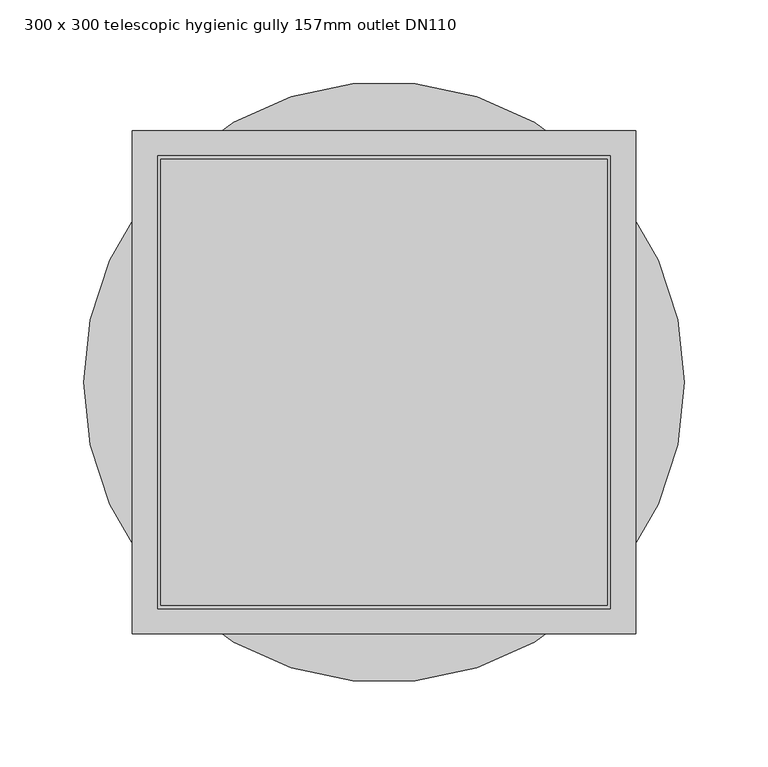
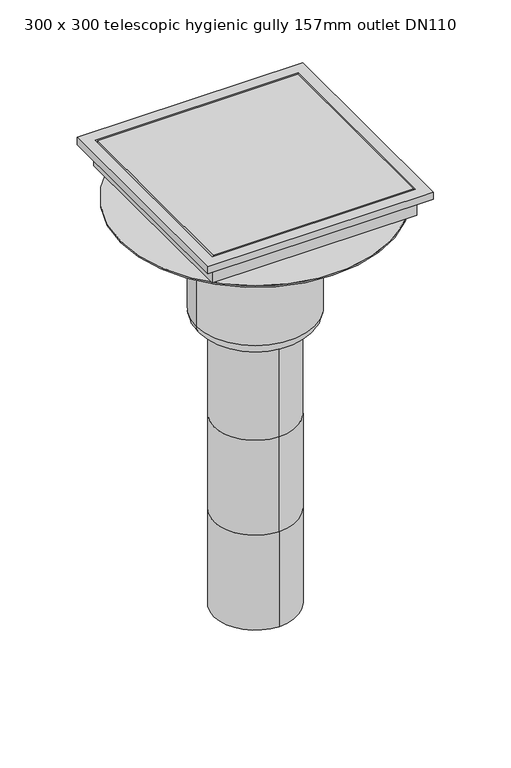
"""IFC4 building model written with IfcOpenShell, lengths in millimetres: sanitary terminal geometry, PF_ST_UN_Siphon telescopics eskis elongated hygiene first_ACO : 300 x 300 telescopic hygienic gully 157mm outlet DN110."""

from ifc_helpers import new_model, si_unit, point, frame, origin, origin_2d, place, context, project, spatial, polyline, circle_curve, ellipse_curve, trimmed, segment, composite_curve, outline, extrude, faceted_brep, source, transform, mapped, element, save
from ifc_brep_helpers import plane_surface, cylinder_surface, revolved_surface, advanced_brep


def sanitary_terminal_300_x_300_telescopic_hygienic_gully_157mm_dd55190f(model_context):
    return source(origin(), model_context, "Body", "SolidModel", [
        extrude(outline(composite_curve([segment(trimmed(circle_curve(origin_2d(), 71.5), [point((-71.5, 0.0))], [point((71.5, 0.0))], False, "CARTESIAN"), True, "CONTINUOUS"), segment(trimmed(circle_curve(origin_2d(), 71.5), [point((71.5, 0.0))], [point((-71.5, 0.0))], False, "CARTESIAN"), True, "CONTINUOUS")], self_intersect=False)), frame((0.0, 0.0, -219.0), z_axis=(0.0, 0.0, 1.0), x_axis=(1.0, 0.0, 0.0)), (0.0, 0.0, 1.0), 63.0),
        faceted_brep([(150.0, 150.0, -130.0), (150.0, 150.0, -120.0), (150.0, -150.0, -120.0), (150.0, -150.0, -130.0), (136.0, 136.0, -156.0), (136.0, 136.0, -130.0), (136.0, -136.0, -130.0), (136.0, -136.0, -156.0), (135.0, -135.0, -120.0), (135.0, 135.0, -120.0), (135.0, 135.0, -146.0), (135.0, -135.0, -146.0), (-150.0, -150.0, -120.0), (-150.0, -150.0, -130.0), (-136.0, -136.0, -130.0), (-136.0, -136.0, -156.0), (-135.0, -135.0, -120.0), (-135.0, -135.0, -146.0), (-150.0, 150.0, -120.0), (-150.0, 150.0, -130.0), (-136.0, 136.0, -130.0), (-136.0, 136.0, -156.0), (-135.0, 135.0, -120.0), (-135.0, 135.0, -146.0)], [[[0, 1, 2, 3]], [[4, 5, 6, 7]], [[8, 9, 10, 11]], [[3, 2, 12, 13]], [[7, 6, 14, 15]], [[16, 8, 11, 17]], [[13, 12, 18, 19]], [[15, 14, 20, 21]], [[22, 16, 17, 23]], [[2, 1, 18, 12], [9, 8, 16, 22]], [[1, 0, 19, 18]], [[0, 3, 13, 19], [6, 5, 20, 14]], [[5, 4, 21, 20]], [[4, 7, 15, 21]], [[9, 22, 23, 10]], [[11, 10, 23, 17]]]),
        extrude(outline(polyline([(133.0, 133.0), (133.0, -133.0), (-133.0, -133.0), (-133.0, 133.0), (133.0, 133.0)])), frame((0.0, 0.0, -146.0), z_axis=(0.0, 0.0, 1.0), x_axis=(1.0, 0.0, 0.0)), (0.0, 0.0, 1.0), 26.0),
        advanced_brep(
        [(0.0, -55.0, -736.0), (0.0, 55.0, -736.0), (0.0, -55.0, -602.6666667), (0.0, 55.0, -602.6666667), (0.0, -55.0, -469.3333333), (0.0, 55.0, -469.3333333), (0.0, 55.0, -336.0), (55.0, 0.0, -336.0), (0.0, -55.0, -336.0), (-55.0, 0.0, -336.0), (78.5, 0.0, -319.5), (-78.5, 0.0, -319.5), (-78.5, 0.0, -167.0), (78.5, 0.0, -167.0), (62.0, 0.0, -336.0), (-62.0, 0.0, -336.0), (-179.0, 0.0, -167.0), (179.0, 0.0, -167.0), (-179.0, 0.0, -165.0), (179.0, 0.0, -165.0)],
        [
            (0, 1, circle_curve(frame((0.0, 0.0, -736.0), z_axis=(0.0, 0.0, -1.0), x_axis=(0.0, 1.0, 0.0)), 55.0)),
            (1, 0, circle_curve(frame((0.0, 0.0, -736.0), z_axis=(0.0, 0.0, -1.0), x_axis=(0.0, 1.0, 0.0)), 55.0)),
            (0, 2),
            (2, 3, circle_curve(frame((0.0, 0.0, -602.6666667), z_axis=(0.0, 0.0, -1.0), x_axis=(0.0, 1.0, 0.0)), 55.0)),
            (3, 1),
            (3, 2, circle_curve(frame((0.0, 0.0, -602.6666667), z_axis=(0.0, 0.0, -1.0), x_axis=(0.0, 1.0, 0.0)), 55.0)),
            (4, 2),
            (3, 5),
            (5, 4, circle_curve(frame((0.0, 0.0, -469.3333333), z_axis=(0.0, 0.0, -1.0), x_axis=(1.0, 0.0, 0.0)), 55.0)),
            (4, 5, circle_curve(frame((0.0, 0.0, -469.3333333), z_axis=(0.0, 0.0, -1.0), x_axis=(-1.0, 0.0, 0.0)), 55.0)),
            (5, 6),
            (6, 7, circle_curve(frame((0.0, 0.0, -336.0), z_axis=(0.0, 0.0, -1.0), x_axis=(0.0, 1.0, 0.0)), 55.0)),
            (7, 8, circle_curve(frame((0.0, 0.0, -336.0), z_axis=(0.0, 0.0, -1.0), x_axis=(0.0, 1.0, 0.0)), 55.0)),
            (8, 4),
            (8, 9, circle_curve(frame((0.0, 0.0, -336.0), z_axis=(0.0, 0.0, -1.0), x_axis=(0.0, 1.0, 0.0)), 55.0)),
            (9, 6, circle_curve(frame((0.0, 0.0, -336.0), z_axis=(0.0, 0.0, -1.0), x_axis=(0.0, 1.0, 0.0)), 55.0)),
            (10, 11, circle_curve(frame((0.0, 0.0, -319.5), z_axis=(0.0, 0.0, 1.0), x_axis=(-1.0, 0.0, 0.0)), 78.5)),
            (11, 12),
            (12, 13, circle_curve(frame((0.0, 0.0, -167.0), z_axis=(0.0, 0.0, -1.0), x_axis=(-1.0, 0.0, 0.0)), 78.5)),
            (13, 10),
            (11, 10, circle_curve(frame((0.0, 0.0, -319.5), z_axis=(0.0, 0.0, 1.0), x_axis=(-1.0, 0.0, 0.0)), 78.5)),
            (13, 12, circle_curve(frame((0.0, 0.0, -167.0), z_axis=(0.0, 0.0, -1.0), x_axis=(-1.0, 0.0, 0.0)), 78.5)),
            (10, 14, circle_curve(frame((62.0, 0.0, -319.5), z_axis=(0.0, 1.0, 0.0), x_axis=(-1.0, 0.0, 0.0)), 16.5)),
            (14, 15, circle_curve(frame((0.0, 0.0, -336.0), z_axis=(0.0, 0.0, 1.0), x_axis=(-1.0, 0.0, 0.0)), 62.0)),
            (15, 11, circle_curve(frame((-62.0, 0.0, -319.5), z_axis=(0.0, 1.0, 0.0), x_axis=(1.0, 0.0, 0.0)), 16.5)),
            (15, 14, circle_curve(frame((0.0, 0.0, -336.0), z_axis=(0.0, 0.0, 1.0), x_axis=(-1.0, 0.0, 0.0)), 62.0)),
            (14, 7),
            (9, 15),
            (16, 17, circle_curve(frame((0.0, 0.0, -167.0), z_axis=(0.0, 0.0, -1.0), x_axis=(1.0, 0.0, 0.0)), 179.0)),
            (17, 16, circle_curve(frame((0.0, 0.0, -167.0), z_axis=(0.0, 0.0, -1.0), x_axis=(1.0, 0.0, 0.0)), 179.0)),
            (18, 19, circle_curve(frame((0.0, 0.0, -165.0), z_axis=(0.0, 0.0, 1.0), x_axis=(1.0, 0.0, 0.0)), 179.0)),
            (19, 18, circle_curve(frame((0.0, 0.0, -165.0), z_axis=(0.0, 0.0, 1.0), x_axis=(1.0, 0.0, 0.0)), 179.0)),
            (17, 19),
            (18, 16),
        ],
        [
            plane_surface(frame((0.0, 55.0, -736.0), z_axis=(0.0, 0.0, -1.0), x_axis=(1.0, 0.0, 0.0))),
            cylinder_surface(frame((0.0, 0.0, -602.6666667), z_axis=(0.0, 0.0, -1.0), x_axis=(0.0, 1.0, 0.0)), 55.0),
            cylinder_surface(frame((0.0, 0.0, -469.3333333), z_axis=(0.0, 0.0, -1.0), x_axis=(1.0, 0.0, 0.0)), 55.0),
            cylinder_surface(frame((0.0, 0.0, -469.3333333), z_axis=(0.0, 0.0, -1.0), x_axis=(-1.0, 0.0, 0.0)), 55.0),
            cylinder_surface(frame((0.0, 0.0, -336.0), z_axis=(0.0, 0.0, -1.0), x_axis=(0.0, 1.0, 0.0)), 55.0),
            cylinder_surface(frame((0.0, 0.0, -105.0), z_axis=(0.0, 0.0, -1.0), x_axis=(-1.0, 0.0, 0.0)), 78.5),
            revolved_surface(trimmed(ellipse_curve(frame((-62.0, 0.0, -319.5), z_axis=(0.0, -1.0, 0.0), x_axis=(1.0, 0.0, 0.0)), 16.5, 16.5), [point((-78.5, 0.0, -319.5))], [point((-62.0, 0.0, -336.0))], True, "CARTESIAN"), (0.0, 0.0, -105.0), (0.0, 0.0, -1.0)),
            plane_surface(frame((0.0, 0.0, -336.0), z_axis=(0.0, 0.0, -1.0), x_axis=(-1.0, 0.0, 0.0))),
            plane_surface(frame((179.0, 0.0, -167.0), z_axis=(0.0, 0.0, -1.0), x_axis=(0.0, -1.0, 0.0))),
            plane_surface(frame((179.0, 0.0, -165.0), z_axis=(0.0, 0.0, 1.0), x_axis=(0.0, 1.0, 0.0))),
            cylinder_surface(frame((0.0, 0.0, -167.0), z_axis=(0.0, 0.0, 1.0), x_axis=(1.0, 0.0, 0.0)), 179.0),
        ],
        [
            (0, [[1, 2]]),
            (1, [[-1, 3, 4, 5]]),
            (1, [[-2, -5, 6, -3]]),
            (2, [[7, -6, 8, 9]]),
            (3, [[-7, 10, -8, -4]]),
            (4, [[11, 12, 13, 14, -9]]),
            (4, [[-11, -10, -14, 15, 16]]),
            (5, [[17, 18, 19, 20]]),
            (5, [[-18, 21, -20, 22]]),
            (6, [[-17, 23, 24, 25]]),
            (6, [[-21, -25, 26, -23]]),
            (7, [[-24, 27, -12, -16, 28]]),
            (7, [[-26, -28, -15, -13, -27]]),
            (8, [[29, 30], [-19, -22]]),
            (9, [[31, 32]]),
            (10, [[-30, 33, -31, 34]]),
            (10, [[-29, -34, -32, -33]]),
        ],
    ),
    ])


if __name__ == "__main__":
    model = new_model("IFC4")
    model_context = context("Model", 3, world=origin())
    ifc_project = project(units=[si_unit("LENGTHUNIT", "METRE", prefix="MILLI")], contexts=[model_context])
    site = spatial("IfcSite", under=ifc_project)
    building = spatial("IfcBuilding", under=site)
    placement = place(None, origin())
    sanitary_terminal_300_x_300_telescopic_hygienic_gully_157mm_shape = sanitary_terminal_300_x_300_telescopic_hygienic_gully_157mm_dd55190f(model_context)
    element("IfcSanitaryTerminal", 1, ObjectType="PF_ST_UN_Siphon telescopics eskis elongated hygiene first_ACO : 300 x 300 telescopic hygienic gully 157mm outlet DN110", at=placement, inside=building, context=model_context, shape_type="MappedRepresentation", body=[
        mapped(sanitary_terminal_300_x_300_telescopic_hygienic_gully_157mm_shape, transform((0.0, 0.0, 0.0), x_axis=(1.0, 0.0, 0.0), y_axis=(0.0, 1.0, 0.0), z_axis=(0.0, 0.0, 1.0))),
    ])
    save(model, "model.ifc")
